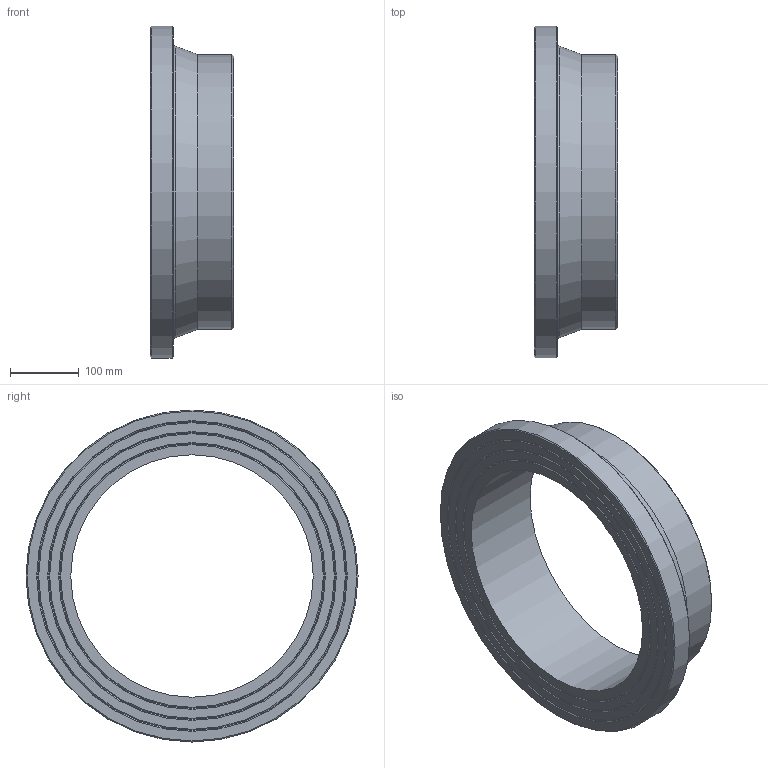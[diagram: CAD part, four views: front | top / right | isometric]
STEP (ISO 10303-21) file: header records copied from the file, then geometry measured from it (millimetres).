
FILE_DESCRIPTION(/* description */ ('Unknown'),/* implementation_level */ '2;1');
FILE_NAME(/* name */ 'CCP400B',/* time_stamp */ '2022-04-05T08:31:24+02:00',/* author */ ('Unknown'),/* organization */ ('Unknown'),/* preprocessor_version */ 'ST-DEVELOPER v18.1',/* originating_system */ 'Solid Edge',/* authorisation */ 'Unknown');
FILE_SCHEMA (('AUTOMOTIVE_DESIGN {1 0 10303 214 3 1 1}'));
Length unit declared in the file: millimetre
Products named in the file (1): CCP400B
Bounding box: 121 x 483 x 483 mm (x, y, z)
Volume: 5592299.1 mm3; surface area: 449937.3 mm2
Topology: 1 solids, 1 shells, 20 faces, 35 edges, 21 vertices
Faces by surface type: cone 10, plane 6, cylinder 3, torus 1
Full cylindrical faces by diameter (mm): 352.6 x1, 400 x1, 483 x1
Entity records: 438 total; most frequent: DIRECTION 82, CARTESIAN_POINT 61, AXIS2_PLACEMENT_3D 41, ORIENTED_EDGE 40, EDGE_LOOP 40, FACE_BOUND 40, EDGE_CURVE 20, VERTEX_POINT 20
